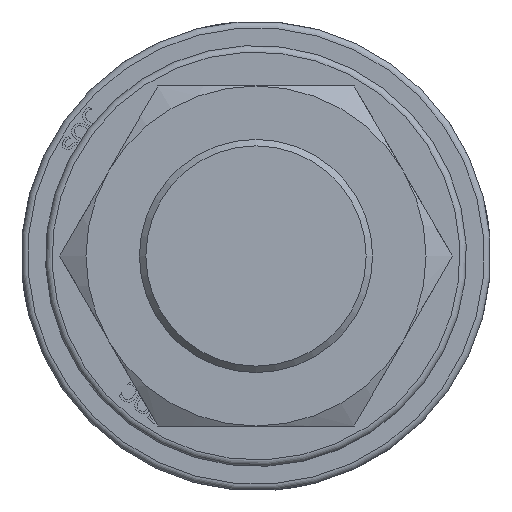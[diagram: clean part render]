
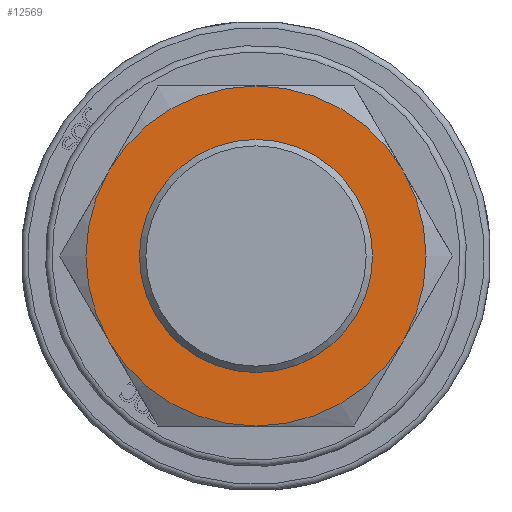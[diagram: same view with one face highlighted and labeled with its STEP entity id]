
A CAD part, front view. The second image highlights one B-rep face of the part: STEP entity #12569.
In plain terms, the highlighted planar face has unit normal (0, -1, 0) as drawn and (-1, 0, 0) by its records, which use the part's own axes.
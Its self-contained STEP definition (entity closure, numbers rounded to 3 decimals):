
#112=CIRCLE('',#13235,36.);
#114=CIRCLE('',#13239,52.5);
#115=CIRCLE('',#13240,52.5);
#116=CIRCLE('',#13241,52.5);
#117=CIRCLE('',#13242,52.5);
#118=CIRCLE('',#13243,52.5);
#119=CIRCLE('',#13244,52.5);
#184=FACE_BOUND('',#1662,.T.);
#409=PLANE('',#13238);
#900=FACE_OUTER_BOUND('',#1661,.T.);
#1661=EDGE_LOOP('',(#9900,#9901,#9902,#9903,#9904,#9905));
#1662=EDGE_LOOP('',(#9906));
#5592=VERTEX_POINT('',#19258);
#5594=VERTEX_POINT('',#19264);
#5595=VERTEX_POINT('',#19265);
#5596=VERTEX_POINT('',#19267);
#5597=VERTEX_POINT('',#19269);
#5598=VERTEX_POINT('',#19271);
#5599=VERTEX_POINT('',#19273);
#7141=EDGE_CURVE('',#5592,#5592,#112,.T.);
#7143=EDGE_CURVE('',#5594,#5595,#114,.T.);
#7144=EDGE_CURVE('',#5595,#5596,#115,.T.);
#7145=EDGE_CURVE('',#5596,#5597,#116,.T.);
#7146=EDGE_CURVE('',#5597,#5598,#117,.T.);
#7147=EDGE_CURVE('',#5598,#5599,#118,.T.);
#7148=EDGE_CURVE('',#5599,#5594,#119,.T.);
#9900=ORIENTED_EDGE('',*,*,#7143,.T.);
#9901=ORIENTED_EDGE('',*,*,#7144,.T.);
#9902=ORIENTED_EDGE('',*,*,#7145,.T.);
#9903=ORIENTED_EDGE('',*,*,#7146,.T.);
#9904=ORIENTED_EDGE('',*,*,#7147,.T.);
#9905=ORIENTED_EDGE('',*,*,#7148,.T.);
#9906=ORIENTED_EDGE('',*,*,#7141,.F.);
#12569=ADVANCED_FACE('',(#900,#184),#409,.F.);
#13235=AXIS2_PLACEMENT_3D('',#19259,#14400,#14401);
#13238=AXIS2_PLACEMENT_3D('',#19263,#14406,#14407);
#13239=AXIS2_PLACEMENT_3D('',#19266,#14408,#14409);
#13240=AXIS2_PLACEMENT_3D('',#19268,#14410,#14411);
#13241=AXIS2_PLACEMENT_3D('',#19270,#14412,#14413);
#13242=AXIS2_PLACEMENT_3D('',#19272,#14414,#14415);
#13243=AXIS2_PLACEMENT_3D('',#19274,#14416,#14417);
#13244=AXIS2_PLACEMENT_3D('',#19275,#14418,#14419);
#14400=DIRECTION('center_axis',(-1.,0.,0.));
#14401=DIRECTION('ref_axis',(0.,0.,-1.));
#14406=DIRECTION('center_axis',(1.,0.,0.));
#14407=DIRECTION('ref_axis',(0.,0.,-1.));
#14408=DIRECTION('center_axis',(-1.,0.,0.));
#14409=DIRECTION('ref_axis',(0.,1.,0.));
#14410=DIRECTION('center_axis',(-1.,0.,0.));
#14411=DIRECTION('ref_axis',(0.,1.,0.));
#14412=DIRECTION('center_axis',(-1.,0.,0.));
#14413=DIRECTION('ref_axis',(0.,1.,0.));
#14414=DIRECTION('center_axis',(-1.,0.,0.));
#14415=DIRECTION('ref_axis',(0.,1.,0.));
#14416=DIRECTION('center_axis',(-1.,0.,0.));
#14417=DIRECTION('ref_axis',(0.,1.,0.));
#14418=DIRECTION('center_axis',(-1.,0.,0.));
#14419=DIRECTION('ref_axis',(0.,1.,0.));
#19258=CARTESIAN_POINT('',(0.,0.,36.));
#19259=CARTESIAN_POINT('Origin',(0.,0.,0.));
#19263=CARTESIAN_POINT('Origin',(0.,0.,0.));
#19264=CARTESIAN_POINT('',(0.,-45.466,-26.25));
#19265=CARTESIAN_POINT('',(0.,-45.466,26.25));
#19266=CARTESIAN_POINT('Origin',(0.,0.,0.));
#19267=CARTESIAN_POINT('',(0.,0.,52.5));
#19268=CARTESIAN_POINT('Origin',(0.,0.,0.));
#19269=CARTESIAN_POINT('',(0.,45.466,26.25));
#19270=CARTESIAN_POINT('Origin',(0.,0.,0.));
#19271=CARTESIAN_POINT('',(0.,45.466,-26.25));
#19272=CARTESIAN_POINT('Origin',(0.,0.,0.));
#19273=CARTESIAN_POINT('',(0.,0.,-52.5));
#19274=CARTESIAN_POINT('Origin',(0.,0.,0.));
#19275=CARTESIAN_POINT('Origin',(0.,0.,0.));
